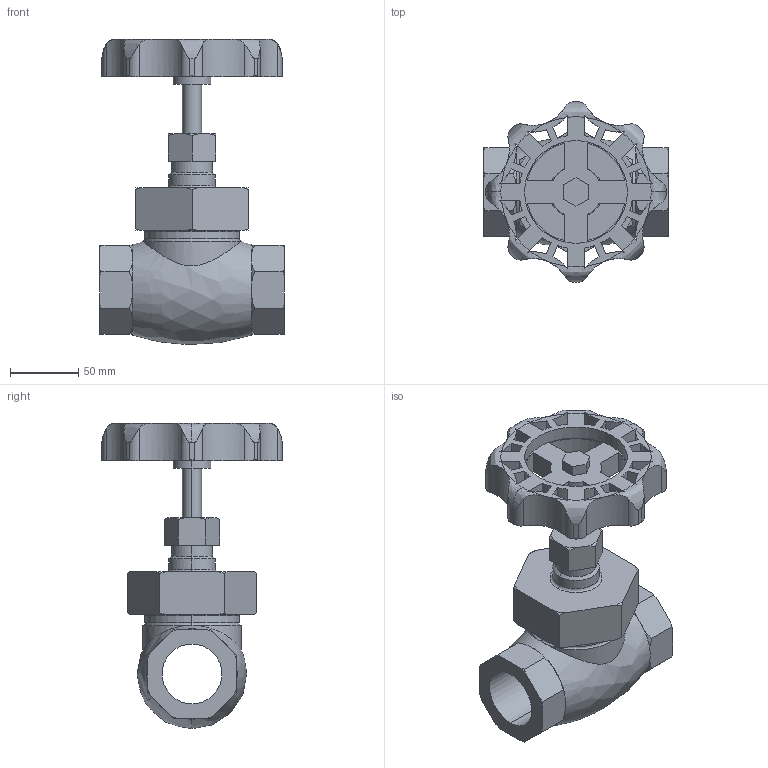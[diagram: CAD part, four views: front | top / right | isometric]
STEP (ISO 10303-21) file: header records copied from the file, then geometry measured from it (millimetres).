
FILE_DESCRIPTION( (''), '2;1');
FILE_NAME ('PC1027.9568.GLV-16 40A_18503.stp','2025-07-28T11:45:52',(''),(''),'spGate 19.8.4 (****-****-****-****)','','');
FILE_SCHEMA (('AUTOMOTIVE_DESIGN'));
Length unit declared in the file: millimetre
Bounding box: 135 x 131.72 x 222.95 mm (x, y, z)
Volume: 799338.2 mm3; surface area: 130887.1 mm2
Topology: 1 solids, 1 shells, 261 faces, 750 edges, 484 vertices
Faces by surface type: plane 103, cylinder 86, bspline 72
Entity records: 15696 total; most frequent: CARTESIAN_POINT 3612, ORIENTED_EDGE 1500, DIRECTION 1170, COLOUR_RGB 1012, PRESENTATION_STYLE_ASSIGNMENT 1012, STYLED_ITEM 1012, EDGE_CURVE 750, DRAUGHTING_PRE_DEFINED_CURVE_FONT 750
